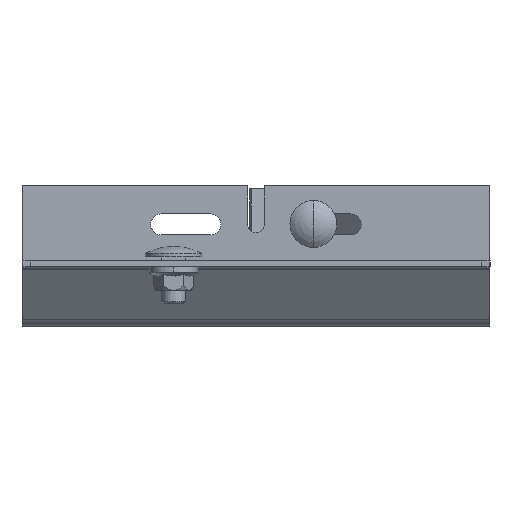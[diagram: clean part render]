
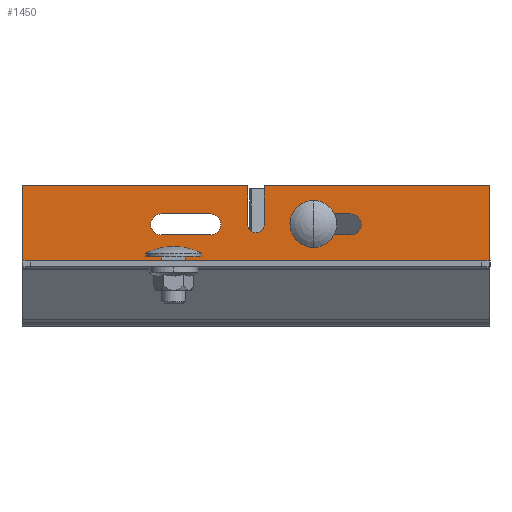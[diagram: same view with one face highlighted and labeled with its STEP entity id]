
A CAD part, top view. The second image highlights one B-rep face of the part: STEP entity #1450.
In plain terms, the highlighted planar face has unit normal (0, 0, 1) as drawn and (0, 1, -0.017) by its records, which use the part's own axes.
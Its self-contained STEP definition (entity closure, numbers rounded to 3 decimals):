
#10=CARTESIAN_POINT('',(100.,-20.75,16.398));
#20=DIRECTION('',(0.,1.,
-0.017));
#30=DIRECTION('',(0.,-0.017,
-1.));
#40=AXIS2_PLACEMENT_3D('',#10,#20,#30);
#50=PLANE('',#40);
#60=CARTESIAN_POINT('',(96.5,-21.04,
-0.25));
#70=DIRECTION('',(0.,-0.017,
-1.));
#80=VECTOR('',#70,1.);
#90=LINE('',#60,#80);
#100=CARTESIAN_POINT('',(96.5,-20.357,
38.895));
#110=VERTEX_POINT('',#100);
#120=CARTESIAN_POINT('',(96.5,-20.645,
22.398));
#130=VERTEX_POINT('',#120);
#140=EDGE_CURVE('',#110,#130,#90,.T.);
#150=ORIENTED_EDGE('',*,*,#140,.T.);
#160=CARTESIAN_POINT('',(0.,-20.357,
38.895));
#170=DIRECTION('',(1.,0.,0.));
#180=VECTOR('',#170,1.);
#190=LINE('',#160,#180);
#200=CARTESIAN_POINT('',(0.,-20.357,
38.895));
#210=VERTEX_POINT('',#200);
#220=EDGE_CURVE('',#210,#110,#190,.T.);
#230=ORIENTED_EDGE('',*,*,#220,.T.);
#240=CARTESIAN_POINT('',(0.,-21.26,
-12.845));
#250=DIRECTION('',(0.,-0.017,
-1.));
#260=VECTOR('',#250,1.);
#270=LINE('',#240,#260);
#280=CARTESIAN_POINT('',(0.,-21.282,
-14.093));
#290=VERTEX_POINT('',#280);
#300=EDGE_CURVE('',#210,#290,#270,.T.);
#310=ORIENTED_EDGE('',*,*,#300,.F.);
#320=CARTESIAN_POINT('',(200.,-21.282,-14.093));
#330=DIRECTION('',(-1.,0.,0.));
#340=VECTOR('',#330,1.);
#350=LINE('',#320,#340);
#360=CARTESIAN_POINT('',(200.,-21.282,-14.093));
#370=VERTEX_POINT('',#360);
#380=EDGE_CURVE('',#370,#290,#350,.T.);
#390=ORIENTED_EDGE('',*,*,#380,.T.);
#400=CARTESIAN_POINT('',(200.,-21.857,-47.019));
#410=DIRECTION('',(0.,0.017,
1.));
#420=VECTOR('',#410,1.);
#430=LINE('',#400,#420);
#440=CARTESIAN_POINT('',(200.,-20.357,38.895));
#450=VERTEX_POINT('',#440);
#460=EDGE_CURVE('',#370,#450,#430,.T.);
#470=ORIENTED_EDGE('',*,*,#460,.F.);
#480=CARTESIAN_POINT('',(0.,-20.357,
38.895));
#490=DIRECTION('',(1.,0.,0.));
#500=VECTOR('',#490,1.);
#510=LINE('',#480,#500);
#520=CARTESIAN_POINT('',(103.5,-20.357,38.895));
#530=VERTEX_POINT('',#520);
#540=EDGE_CURVE('',#530,#450,#510,.T.);
#550=ORIENTED_EDGE('',*,*,#540,.T.);
#560=CARTESIAN_POINT('',(103.5,-21.04,-0.25));
#570=DIRECTION('',(0.,0.017,
1.));
#580=VECTOR('',#570,1.);
#590=LINE('',#560,#580);
#600=CARTESIAN_POINT('',(103.5,-20.645,22.398));
#610=VERTEX_POINT('',#600);
#620=EDGE_CURVE('',#610,#530,#590,.T.);
#630=ORIENTED_EDGE('',*,*,#620,.T.);
#640=CARTESIAN_POINT('',(100.,-20.645,22.398));
#650=DIRECTION('',(0.,-1.,
0.017));
#660=DIRECTION('',(0.,0.017,
1.));
#670=AXIS2_PLACEMENT_3D('',#640,#650,#660);
#680=CIRCLE('',#670,3.5);
#690=EDGE_CURVE('',#130,#610,#680,.T.);
#700=ORIENTED_EDGE('',*,*,#690,.T.);
#710=EDGE_LOOP('',(#700,#630,#550,#470,#390,#310,#230,#150));
#720=FACE_OUTER_BOUND('',#710,.T.);
#730=CARTESIAN_POINT('',(0.,-20.724,
17.898));
#740=DIRECTION('',(1.,0.,0.));
#750=VECTOR('',#740,1.);
#760=LINE('',#730,#750);
#770=CARTESIAN_POINT('',(59.5,-20.724,
17.898));
#780=VERTEX_POINT('',#770);
#790=CARTESIAN_POINT('',(80.5,-20.724,
17.898));
#800=VERTEX_POINT('',#790);
#810=EDGE_CURVE('',#780,#800,#760,.T.);
#820=ORIENTED_EDGE('',*,*,#810,.T.);
#830=CARTESIAN_POINT('',(59.5,-20.645,
22.398));
#840=DIRECTION('',(0.,-1.,
0.017));
#850=DIRECTION('',(0.,0.017,
1.));
#860=AXIS2_PLACEMENT_3D('',#830,#840,#850);
#870=CIRCLE('',#860,4.5);
#880=CARTESIAN_POINT('',(59.5,-20.567,
26.897));
#890=VERTEX_POINT('',#880);
#900=EDGE_CURVE('',#890,#780,#870,.T.);
#910=ORIENTED_EDGE('',*,*,#900,.T.);
#920=CARTESIAN_POINT('',(0.,-20.567,
26.897));
#930=DIRECTION('',(-1.,0.,0.));
#940=VECTOR('',#930,1.);
#950=LINE('',#920,#940);
#960=CARTESIAN_POINT('',(80.5,-20.567,
26.897));
#970=VERTEX_POINT('',#960);
#980=EDGE_CURVE('',#970,#890,#950,.T.);
#990=ORIENTED_EDGE('',*,*,#980,.T.);
#1000=CARTESIAN_POINT('',(80.5,-20.645,
22.398));
#1010=DIRECTION('',(0.,-1.,
0.017));
#1020=DIRECTION('',(0.,0.017,
1.));
#1030=AXIS2_PLACEMENT_3D('',#1000,#1010,#1020);
#1040=CIRCLE('',#1030,4.5);
#1050=EDGE_CURVE('',#800,#970,#1040,.T.);
#1060=ORIENTED_EDGE('',*,*,#1050,.T.);
#1070=EDGE_LOOP('',(#1060,#990,#910,#820));
#1080=FACE_BOUND('',#1070,.T.);
#1090=CARTESIAN_POINT('',(0.,-20.724,
17.898));
#1100=DIRECTION('',(1.,0.,0.));
#1110=VECTOR('',#1100,1.);
#1120=LINE('',#1090,#1110);
#1130=CARTESIAN_POINT('',(119.5,-20.724,17.898));
#1140=VERTEX_POINT('',#1130);
#1150=CARTESIAN_POINT('',(140.5,-20.724,17.898));
#1160=VERTEX_POINT('',#1150);
#1170=EDGE_CURVE('',#1140,#1160,#1120,.T.);
#1180=ORIENTED_EDGE('',*,*,#1170,.T.);
#1190=CARTESIAN_POINT('',(119.5,-20.645,22.398));
#1200=DIRECTION('',(0.,-1.,
0.017));
#1210=DIRECTION('',(0.,0.017,
1.));
#1220=AXIS2_PLACEMENT_3D('',#1190,#1200,#1210);
#1230=CIRCLE('',#1220,4.5);
#1240=CARTESIAN_POINT('',(119.5,-20.567,26.897));
#1250=VERTEX_POINT('',#1240);
#1260=EDGE_CURVE('',#1250,#1140,#1230,.T.);
#1270=ORIENTED_EDGE('',*,*,#1260,.T.);
#1280=CARTESIAN_POINT('',(0.,-20.567,
26.897));
#1290=DIRECTION('',(-1.,0.,0.));
#1300=VECTOR('',#1290,1.);
#1310=LINE('',#1280,#1300);
#1320=CARTESIAN_POINT('',(140.5,-20.567,26.897));
#1330=VERTEX_POINT('',#1320);
#1340=EDGE_CURVE('',#1330,#1250,#1310,.T.);
#1350=ORIENTED_EDGE('',*,*,#1340,.T.);
#1360=CARTESIAN_POINT('',(140.5,-20.645,22.398));
#1370=DIRECTION('',(0.,-1.,
0.017));
#1380=DIRECTION('',(0.,0.017,
1.));
#1390=AXIS2_PLACEMENT_3D('',#1360,#1370,#1380);
#1400=CIRCLE('',#1390,4.5);
#1410=EDGE_CURVE('',#1160,#1330,#1400,.T.);
#1420=ORIENTED_EDGE('',*,*,#1410,.T.);
#1430=EDGE_LOOP('',(#1420,#1350,#1270,#1180));
#1440=FACE_BOUND('',#1430,.T.);
#1450=ADVANCED_FACE('',(#720,#1080,#1440),#50,.T.);
